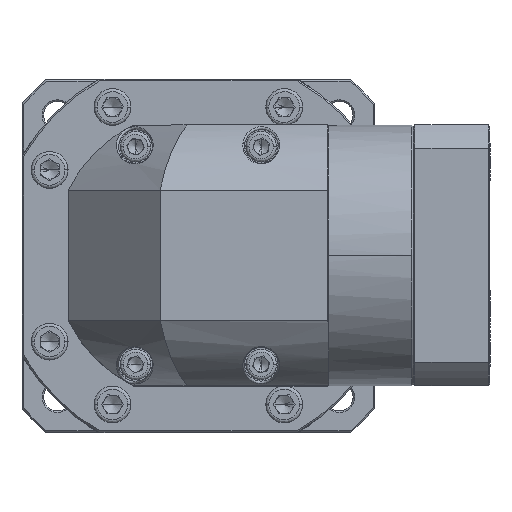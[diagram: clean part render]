
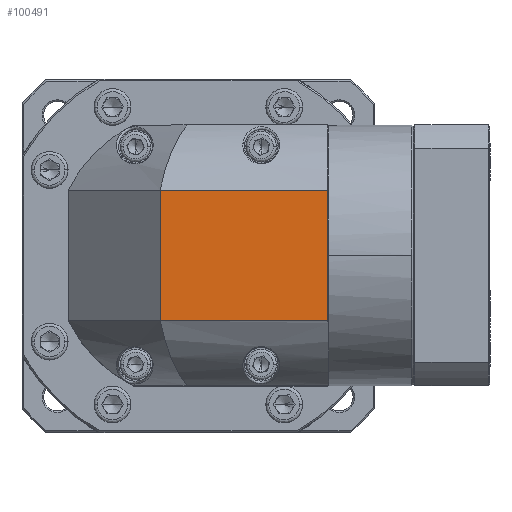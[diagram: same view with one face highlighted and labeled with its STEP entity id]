
A CAD part, top view. The second image highlights one B-rep face of the part: STEP entity #100491.
In plain terms, the highlighted planar face has unit normal (0, 0, 1).
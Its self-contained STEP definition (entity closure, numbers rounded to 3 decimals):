
#2925 = LINE ( 'NONE', #19072, #15611 ) ;
#3175 = AXIS2_PLACEMENT_3D ( 'NONE', #98542, #109110, #69352 ) ;
#8207 = PLANE ( 'NONE',  #3175 ) ;
#11455 = VERTEX_POINT ( 'NONE', #66883 ) ;
#11821 = VECTOR ( 'NONE', #82084, 1000. ) ;
#15611 = VECTOR ( 'NONE', #50514, 1000. ) ;
#19072 = CARTESIAN_POINT ( 'NONE',  ( -44.831, -2.065, 319.002 ) ) ;
#22880 = FACE_OUTER_BOUND ( 'NONE', #52252, .T. ) ;
#24291 = DIRECTION ( 'NONE',  ( 0., 1., 0. ) ) ;
#27454 = VECTOR ( 'NONE', #46128, 1000. ) ;
#30879 = CARTESIAN_POINT ( 'NONE',  ( -44.831, -23.279, 319.002 ) ) ;
#32052 = CARTESIAN_POINT ( 'NONE',  ( 9.669, 19.148, 319.002 ) ) ;
#33554 = VERTEX_POINT ( 'NONE', #32052 ) ;
#38556 = LINE ( 'NONE', #96589, #27454 ) ;
#40419 = CARTESIAN_POINT ( 'NONE',  ( -90.331, 19.148, 319.002 ) ) ;
#46128 = DIRECTION ( 'NONE',  ( -1., 0., 0. ) ) ;
#50514 = DIRECTION ( 'NONE',  ( 0., 1., 0. ) ) ;
#52252 = EDGE_LOOP ( 'NONE', ( #98395, #123610, #69269, #117138 ) ) ;
#58666 = VERTEX_POINT ( 'NONE', #30879 ) ;
#64242 = LINE ( 'NONE', #40419, #11821 ) ;
#66883 = CARTESIAN_POINT ( 'NONE',  ( -44.831, 19.148, 319.002 ) ) ;
#69269 = ORIENTED_EDGE ( 'NONE', *, *, #101080, .F. ) ;
#69352 = DIRECTION ( 'NONE',  ( 1., 0., 0. ) ) ;
#77924 = EDGE_CURVE ( 'NONE', #58666, #11455, #2925, .T. ) ;
#82084 = DIRECTION ( 'NONE',  ( 1., 0., 0. ) ) ;
#94233 = EDGE_CURVE ( 'NONE', #128559, #33554, #96388, .T. ) ;
#95492 = CARTESIAN_POINT ( 'NONE',  ( 9.669, -23.279, 319.002 ) ) ;
#96388 = LINE ( 'NONE', #124869, #123367 ) ;
#96589 = CARTESIAN_POINT ( 'NONE',  ( -90.331, -23.279, 319.002 ) ) ;
#98395 = ORIENTED_EDGE ( 'NONE', *, *, #123918, .F. ) ;
#98542 = CARTESIAN_POINT ( 'NONE',  ( -32.331, -2.065, 319.002 ) ) ;
#100491 = ADVANCED_FACE ( 'NONE', ( #22880 ), #8207, .T. ) ;
#101080 = EDGE_CURVE ( 'NONE', #128559, #58666, #38556, .T. ) ;
#109110 = DIRECTION ( 'NONE',  ( 0., 0., 1. ) ) ;
#117138 = ORIENTED_EDGE ( 'NONE', *, *, #94233, .T. ) ;
#123367 = VECTOR ( 'NONE', #24291, 1000. ) ;
#123610 = ORIENTED_EDGE ( 'NONE', *, *, #77924, .F. ) ;
#123918 = EDGE_CURVE ( 'NONE', #11455, #33554, #64242, .T. ) ;
#124869 = CARTESIAN_POINT ( 'NONE',  ( 9.669, -2.065, 319.002 ) ) ;
#128559 = VERTEX_POINT ( 'NONE', #95492 ) ;
